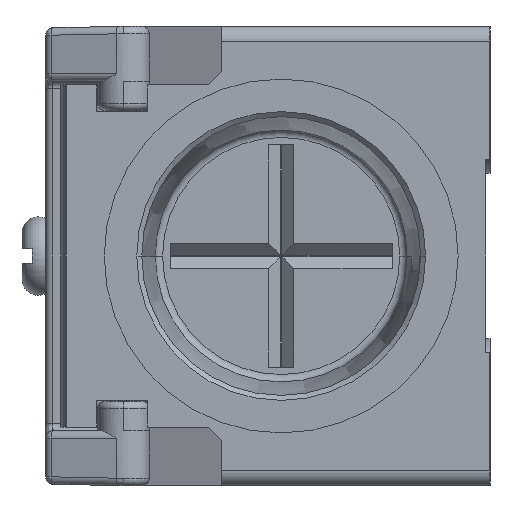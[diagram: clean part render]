
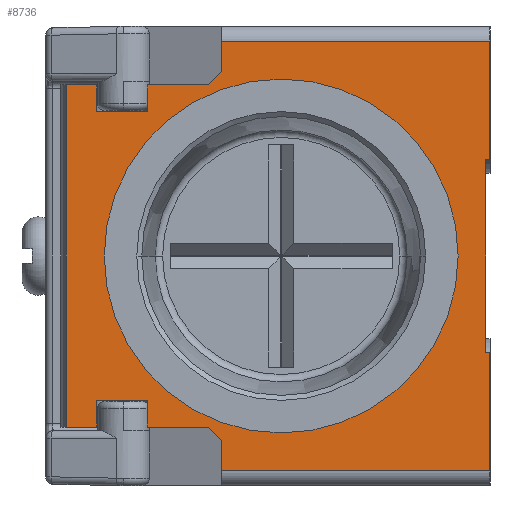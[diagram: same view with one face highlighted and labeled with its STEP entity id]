
A CAD part, left-side view. The second image highlights one B-rep face of the part: STEP entity #8736.
In plain terms, the highlighted planar face has unit normal (-1, 0, 0).
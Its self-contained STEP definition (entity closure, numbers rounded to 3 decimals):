
#6123 = VERTEX_POINT('',#6124);
#6124 = CARTESIAN_POINT('',(-16.956,23.963,6.5));
#6130 = EDGE_CURVE('',#6131,#6123,#6133,.T.);
#6131 = VERTEX_POINT('',#6132);
#6132 = CARTESIAN_POINT('',(-16.956,23.963,-6.5));
#6133 = LINE('',#6134,#6135);
#6134 = CARTESIAN_POINT('',(-16.956,23.963,-6.5));
#6135 = VECTOR('',#6136,1.);
#6136 = DIRECTION('',(0.,0.,1.));
#7461 = VERTEX_POINT('',#7462);
#7462 = CARTESIAN_POINT('',(-16.956,23.663,-6.5));
#7468 = EDGE_CURVE('',#7469,#7461,#7471,.T.);
#7469 = VERTEX_POINT('',#7470);
#7470 = CARTESIAN_POINT('',(-16.956,23.663,-14.5));
#7471 = LINE('',#7472,#7473);
#7472 = CARTESIAN_POINT('',(-16.956,23.663,-14.5));
#7473 = VECTOR('',#7474,1.);
#7474 = DIRECTION('',(0.,0.,1.));
#7768 = VERTEX_POINT('',#7769);
#7769 = CARTESIAN_POINT('',(-16.956,42.663,11.55));
#7775 = EDGE_CURVE('',#7776,#7768,#7778,.T.);
#7776 = VERTEX_POINT('',#7777);
#7777 = CARTESIAN_POINT('',(-16.956,41.763,12.45));
#7778 = LINE('',#7779,#7780);
#7779 = CARTESIAN_POINT('',(-16.956,41.763,12.45));
#7780 = VECTOR('',#7781,1.);
#7781 = DIRECTION('',(0.,0.707,-0.707));
#7801 = EDGE_CURVE('',#7776,#7802,#7804,.T.);
#7802 = VERTEX_POINT('',#7803);
#7803 = CARTESIAN_POINT('',(-16.956,41.763,14.5));
#7804 = LINE('',#7805,#7806);
#7805 = CARTESIAN_POINT('',(-16.956,41.763,12.45));
#7806 = VECTOR('',#7807,1.);
#7807 = DIRECTION('',(0.,0.,1.));
#7824 = EDGE_CURVE('',#7825,#7827,#7829,.T.);
#7825 = VERTEX_POINT('',#7826);
#7826 = CARTESIAN_POINT('',(-16.956,41.763,-14.5));
#7827 = VERTEX_POINT('',#7828);
#7828 = CARTESIAN_POINT('',(-16.956,41.763,-12.45));
#7829 = LINE('',#7830,#7831);
#7830 = CARTESIAN_POINT('',(-16.956,41.763,-14.5));
#7831 = VECTOR('',#7832,1.);
#7832 = DIRECTION('',(0.,0.,1.));
#7857 = EDGE_CURVE('',#7858,#7802,#7860,.T.);
#7858 = VERTEX_POINT('',#7859);
#7859 = CARTESIAN_POINT('',(-16.956,23.663,14.5));
#7860 = LINE('',#7861,#7862);
#7861 = CARTESIAN_POINT('',(-16.956,23.663,14.5));
#7862 = VECTOR('',#7863,1.);
#7863 = DIRECTION('',(0.,1.,0.));
#7969 = EDGE_CURVE('',#7858,#7970,#7972,.T.);
#7970 = VERTEX_POINT('',#7971);
#7971 = CARTESIAN_POINT('',(-16.956,23.663,6.5));
#7972 = LINE('',#7973,#7974);
#7973 = CARTESIAN_POINT('',(-16.956,23.663,14.5));
#7974 = VECTOR('',#7975,1.);
#7975 = DIRECTION('',(0.,0.,-1.));
#8725 = EDGE_CURVE('',#6123,#7970,#8726,.T.);
#8726 = LINE('',#8727,#8728);
#8727 = CARTESIAN_POINT('',(-16.956,23.963,6.5));
#8728 = VECTOR('',#8729,1.);
#8729 = DIRECTION('',(0.,-1.,0.));
#8736 = ADVANCED_FACE('',(#8737,#8853),#8873,.T.);
#8737 = FACE_BOUND('',#8738,.T.);
#8738 = EDGE_LOOP('',(#8739,#8740,#8741,#8749,#8757,#8765,#8773,#8781,
    #8789,#8797,#8805,#8813,#8821,#8829,#8835,#8836,#8842,#8843,#8849,
    #8850,#8851,#8852));
#8739 = ORIENTED_EDGE('',*,*,#7801,.F.);
#8740 = ORIENTED_EDGE('',*,*,#7775,.T.);
#8741 = ORIENTED_EDGE('',*,*,#8742,.F.);
#8742 = EDGE_CURVE('',#8743,#7768,#8745,.T.);
#8743 = VERTEX_POINT('',#8744);
#8744 = CARTESIAN_POINT('',(-16.956,46.813,11.55));
#8745 = LINE('',#8746,#8747);
#8746 = CARTESIAN_POINT('',(-16.956,46.813,11.55));
#8747 = VECTOR('',#8748,1.);
#8748 = DIRECTION('',(0.,-1.,0.));
#8749 = ORIENTED_EDGE('',*,*,#8750,.F.);
#8750 = EDGE_CURVE('',#8751,#8743,#8753,.T.);
#8751 = VERTEX_POINT('',#8752);
#8752 = CARTESIAN_POINT('',(-16.956,46.813,9.75));
#8753 = LINE('',#8754,#8755);
#8754 = CARTESIAN_POINT('',(-16.956,46.813,9.75));
#8755 = VECTOR('',#8756,1.);
#8756 = DIRECTION('',(0.,0.,1.));
#8757 = ORIENTED_EDGE('',*,*,#8758,.T.);
#8758 = EDGE_CURVE('',#8751,#8759,#8761,.T.);
#8759 = VERTEX_POINT('',#8760);
#8760 = CARTESIAN_POINT('',(-16.956,50.213,9.75));
#8761 = LINE('',#8762,#8763);
#8762 = CARTESIAN_POINT('',(-16.956,46.813,9.75));
#8763 = VECTOR('',#8764,1.);
#8764 = DIRECTION('',(0.,1.,0.));
#8765 = ORIENTED_EDGE('',*,*,#8766,.T.);
#8766 = EDGE_CURVE('',#8759,#8767,#8769,.T.);
#8767 = VERTEX_POINT('',#8768);
#8768 = CARTESIAN_POINT('',(-16.956,50.213,11.55));
#8769 = LINE('',#8770,#8771);
#8770 = CARTESIAN_POINT('',(-16.956,50.213,9.75));
#8771 = VECTOR('',#8772,1.);
#8772 = DIRECTION('',(0.,0.,1.));
#8773 = ORIENTED_EDGE('',*,*,#8774,.F.);
#8774 = EDGE_CURVE('',#8775,#8767,#8777,.T.);
#8775 = VERTEX_POINT('',#8776);
#8776 = CARTESIAN_POINT('',(-16.956,52.263,11.55));
#8777 = LINE('',#8778,#8779);
#8778 = CARTESIAN_POINT('',(-16.956,52.263,11.55));
#8779 = VECTOR('',#8780,1.);
#8780 = DIRECTION('',(0.,-1.,0.));
#8781 = ORIENTED_EDGE('',*,*,#8782,.T.);
#8782 = EDGE_CURVE('',#8775,#8783,#8785,.T.);
#8783 = VERTEX_POINT('',#8784);
#8784 = CARTESIAN_POINT('',(-16.956,52.263,-11.55));
#8785 = LINE('',#8786,#8787);
#8786 = CARTESIAN_POINT('',(-16.956,52.263,11.55));
#8787 = VECTOR('',#8788,1.);
#8788 = DIRECTION('',(0.,0.,-1.));
#8789 = ORIENTED_EDGE('',*,*,#8790,.T.);
#8790 = EDGE_CURVE('',#8783,#8791,#8793,.T.);
#8791 = VERTEX_POINT('',#8792);
#8792 = CARTESIAN_POINT('',(-16.956,50.213,-11.55));
#8793 = LINE('',#8794,#8795);
#8794 = CARTESIAN_POINT('',(-16.956,52.263,-11.55));
#8795 = VECTOR('',#8796,1.);
#8796 = DIRECTION('',(0.,-1.,0.));
#8797 = ORIENTED_EDGE('',*,*,#8798,.F.);
#8798 = EDGE_CURVE('',#8799,#8791,#8801,.T.);
#8799 = VERTEX_POINT('',#8800);
#8800 = CARTESIAN_POINT('',(-16.956,50.213,-9.75));
#8801 = LINE('',#8802,#8803);
#8802 = CARTESIAN_POINT('',(-16.956,50.213,-9.75));
#8803 = VECTOR('',#8804,1.);
#8804 = DIRECTION('',(0.,0.,-1.));
#8805 = ORIENTED_EDGE('',*,*,#8806,.F.);
#8806 = EDGE_CURVE('',#8807,#8799,#8809,.T.);
#8807 = VERTEX_POINT('',#8808);
#8808 = CARTESIAN_POINT('',(-16.956,46.813,-9.75));
#8809 = LINE('',#8810,#8811);
#8810 = CARTESIAN_POINT('',(-16.956,46.813,-9.75));
#8811 = VECTOR('',#8812,1.);
#8812 = DIRECTION('',(0.,1.,0.));
#8813 = ORIENTED_EDGE('',*,*,#8814,.T.);
#8814 = EDGE_CURVE('',#8807,#8815,#8817,.T.);
#8815 = VERTEX_POINT('',#8816);
#8816 = CARTESIAN_POINT('',(-16.956,46.813,-11.55));
#8817 = LINE('',#8818,#8819);
#8818 = CARTESIAN_POINT('',(-16.956,46.813,-9.75));
#8819 = VECTOR('',#8820,1.);
#8820 = DIRECTION('',(0.,0.,-1.));
#8821 = ORIENTED_EDGE('',*,*,#8822,.T.);
#8822 = EDGE_CURVE('',#8815,#8823,#8825,.T.);
#8823 = VERTEX_POINT('',#8824);
#8824 = CARTESIAN_POINT('',(-16.956,42.663,-11.55));
#8825 = LINE('',#8826,#8827);
#8826 = CARTESIAN_POINT('',(-16.956,46.813,-11.55));
#8827 = VECTOR('',#8828,1.);
#8828 = DIRECTION('',(0.,-1.,0.));
#8829 = ORIENTED_EDGE('',*,*,#8830,.T.);
#8830 = EDGE_CURVE('',#8823,#7827,#8831,.T.);
#8831 = LINE('',#8832,#8833);
#8832 = CARTESIAN_POINT('',(-16.956,42.663,-11.55));
#8833 = VECTOR('',#8834,1.);
#8834 = DIRECTION('',(0.,-0.707,-0.707));
#8835 = ORIENTED_EDGE('',*,*,#7824,.F.);
#8836 = ORIENTED_EDGE('',*,*,#8837,.T.);
#8837 = EDGE_CURVE('',#7825,#7469,#8838,.T.);
#8838 = LINE('',#8839,#8840);
#8839 = CARTESIAN_POINT('',(-16.956,41.763,-14.5));
#8840 = VECTOR('',#8841,1.);
#8841 = DIRECTION('',(0.,-1.,0.));
#8842 = ORIENTED_EDGE('',*,*,#7468,.T.);
#8843 = ORIENTED_EDGE('',*,*,#8844,.F.);
#8844 = EDGE_CURVE('',#6131,#7461,#8845,.T.);
#8845 = LINE('',#8846,#8847);
#8846 = CARTESIAN_POINT('',(-16.956,23.963,-6.5));
#8847 = VECTOR('',#8848,1.);
#8848 = DIRECTION('',(0.,-1.,0.));
#8849 = ORIENTED_EDGE('',*,*,#6130,.T.);
#8850 = ORIENTED_EDGE('',*,*,#8725,.T.);
#8851 = ORIENTED_EDGE('',*,*,#7969,.F.);
#8852 = ORIENTED_EDGE('',*,*,#7857,.T.);
#8853 = FACE_BOUND('',#8854,.T.);
#8854 = EDGE_LOOP('',(#8855,#8866));
#8855 = ORIENTED_EDGE('',*,*,#8856,.F.);
#8856 = EDGE_CURVE('',#8857,#8859,#8861,.T.);
#8857 = VERTEX_POINT('',#8858);
#8858 = CARTESIAN_POINT('',(-16.956,37.763,-9.75));
#8859 = VERTEX_POINT('',#8860);
#8860 = CARTESIAN_POINT('',(-16.956,37.763,9.75));
#8861 = CIRCLE('',#8862,9.75);
#8862 = AXIS2_PLACEMENT_3D('',#8863,#8864,#8865);
#8863 = CARTESIAN_POINT('',(-16.956,37.763,
    0.));
#8864 = DIRECTION('',(-1.,0.,0.));
#8865 = DIRECTION('',(0.,0.,-1.));
#8866 = ORIENTED_EDGE('',*,*,#8867,.F.);
#8867 = EDGE_CURVE('',#8859,#8857,#8868,.T.);
#8868 = CIRCLE('',#8869,9.75);
#8869 = AXIS2_PLACEMENT_3D('',#8870,#8871,#8872);
#8870 = CARTESIAN_POINT('',(-16.956,37.763,
    0.));
#8871 = DIRECTION('',(-1.,0.,0.));
#8872 = DIRECTION('',(0.,0.,1.));
#8873 = PLANE('',#8874);
#8874 = AXIS2_PLACEMENT_3D('',#8875,#8876,#8877);
#8875 = CARTESIAN_POINT('',(-16.956,48.763,-15.5));
#8876 = DIRECTION('',(-1.,0.,0.));
#8877 = DIRECTION('',(0.,0.,-1.));
